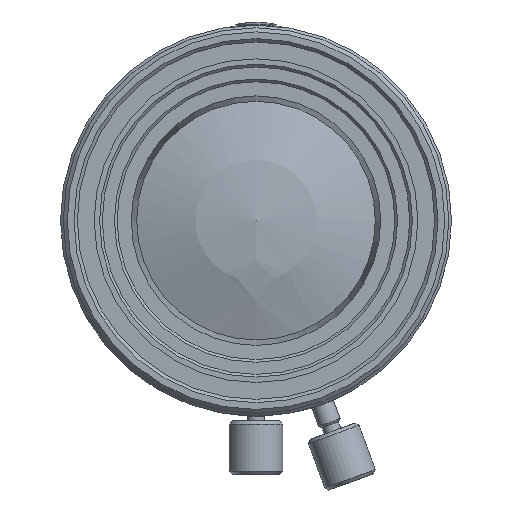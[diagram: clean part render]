
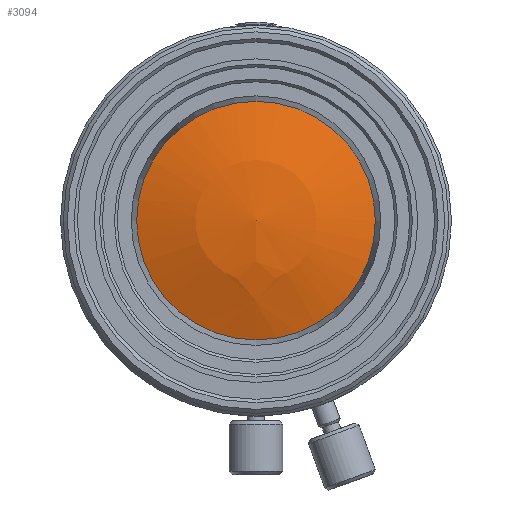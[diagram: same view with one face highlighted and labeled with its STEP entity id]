
A CAD part, left-side view. The second image highlights one B-rep face of the part: STEP entity #3094.
In plain terms, the highlighted spherical face has radius 24.52 mm.
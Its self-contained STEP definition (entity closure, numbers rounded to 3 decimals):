
#46=SPHERICAL_SURFACE('',#3357,24.52);
#241=CIRCLE('',#3356,8.85);
#488=ORIENTED_EDGE('',*,*,#779,.F.);
#779=EDGE_CURVE('',#963,#963,#241,.T.);
#963=VERTEX_POINT('',#4517);
#1222=EDGE_LOOP('',(#488));
#1558=FACE_BOUND('',#1222,.T.);
#3094=ADVANCED_FACE('',(#1558),#46,.T.);
#3356=AXIS2_PLACEMENT_3D('',#4516,#3856,#3857);
#3357=AXIS2_PLACEMENT_3D('',#4518,#3858,#3859);
#3856=DIRECTION('',(1.,0.,0.));
#3857=DIRECTION('',(0.,0.,-1.));
#3858=DIRECTION('',(1.,0.,0.));
#3859=DIRECTION('',(0.,0.,-1.));
#4516=CARTESIAN_POINT('',(-52.959,0.,0.));
#4517=CARTESIAN_POINT('',(-52.959,0.,-8.85));
#4518=CARTESIAN_POINT('',(-30.092,0.,0.));
